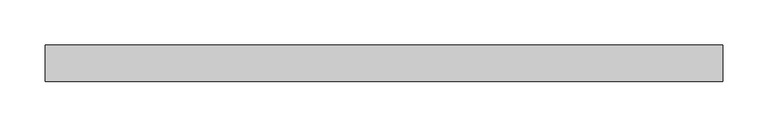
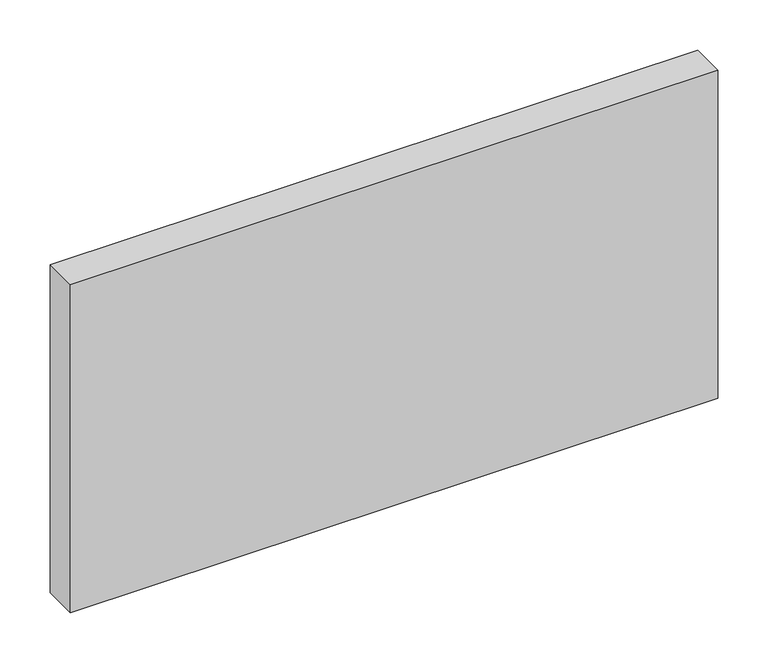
"""IFC4 building model written with IfcOpenShell, lengths in millimetres: plate geometry, Panneau système vide : Epaiss. 4cm."""

from ifc_helpers import new_model, si_unit, origin, origin_with_axes, place, context, project, spatial, polyline, outline, extrude, source, transform, mapped, element, save


def plate_3309108b(model_context):
    return source(origin(), model_context, "Body", "SweptSolid", [
        extrude(outline(polyline([(372.3, -20.0), (-372.3, -20.0), (-372.3, 20.0), (372.3, 20.0), (372.3, -20.0)])), origin_with_axes(), (0.0, 0.0, 1.0), 399.0),
    ])


if __name__ == "__main__":
    model = new_model("IFC4")
    model_context = context("Model", 3, world=origin())
    ifc_project = project(units=[si_unit("LENGTHUNIT", "METRE", prefix="MILLI")], contexts=[model_context])
    site = spatial("IfcSite", under=ifc_project)
    building = spatial("IfcBuilding", under=site)
    placement = place(None, origin())
    plate_shape = plate_3309108b(model_context)
    element("IfcPlate", 1, ObjectType="Panneau système vide : Epaiss. 4cm", at=placement, inside=building, context=model_context, shape_type="MappedRepresentation", body=[
        mapped(plate_shape, transform((0.0, 0.0, 0.0), x_axis=(1.0, 0.0, 0.0), y_axis=(0.0, 1.0, 0.0), z_axis=(0.0, 0.0, 1.0))),
    ])
    save(model, "model.ifc")
